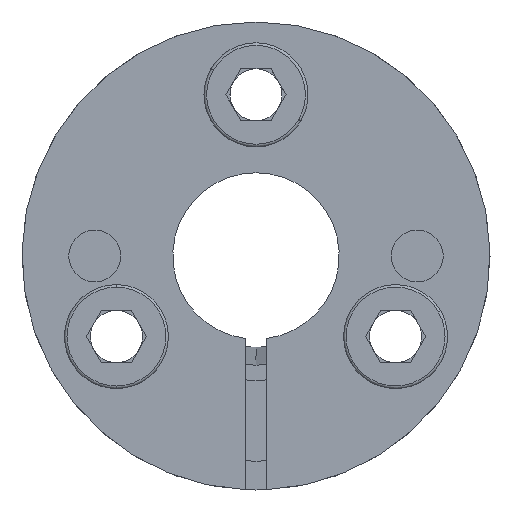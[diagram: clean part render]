
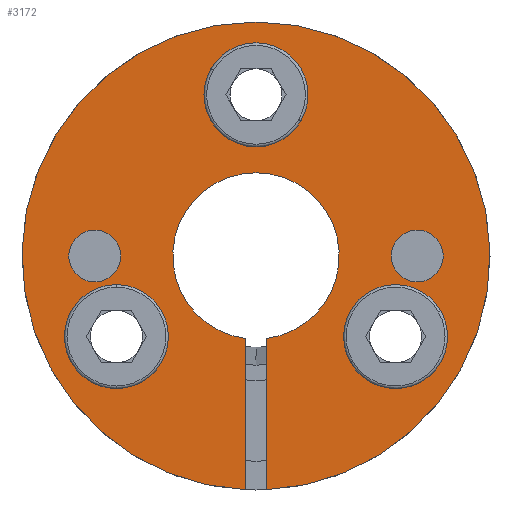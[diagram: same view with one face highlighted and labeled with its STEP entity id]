
A CAD part, left-side view. The second image highlights one B-rep face of the part: STEP entity #3172.
In plain terms, the highlighted planar face has unit normal (-1, 0, 0).
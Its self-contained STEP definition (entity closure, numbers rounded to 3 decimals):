
#39 = CIRCLE ( 'NONE', #2388, 8. ) ;
#50 = FACE_BOUND ( 'NONE', #2341, .T. ) ;
#59 = ORIENTED_EDGE ( 'NONE', *, *, #2454, .F. ) ;
#144 = CARTESIAN_POINT ( 'NONE',  ( -18., -15.5, -2.5 ) ) ;
#155 = LINE ( 'NONE', #1305, #2128 ) ;
#159 = ORIENTED_EDGE ( 'NONE', *, *, #230, .F. ) ;
#174 = ORIENTED_EDGE ( 'NONE', *, *, #2942, .F. ) ;
#194 = DIRECTION ( 'NONE',  ( 0., 0., -1. ) ) ;
#210 = ORIENTED_EDGE ( 'NONE', *, *, #326, .F. ) ;
#220 = CIRCLE ( 'NONE', #912, 2.5 ) ;
#230 = EDGE_CURVE ( 'NONE', #3008, #1530, #39, .T. ) ;
#233 = CARTESIAN_POINT ( 'NONE',  ( -18., 13.423, -11.25 ) ) ;
#269 = CARTESIAN_POINT ( 'NONE',  ( -18., -13.423, -7.75 ) ) ;
#280 = DIRECTION ( 'NONE',  ( -1., 0., 0. ) ) ;
#291 = EDGE_CURVE ( 'NONE', #2180, #383, #1991, .T. ) ;
#295 = CIRCLE ( 'NONE', #2463, 22.5 ) ;
#321 = CARTESIAN_POINT ( 'NONE',  ( -18., 0., 8. ) ) ;
#326 = EDGE_CURVE ( 'NONE', #3217, #930, #1178, .T. ) ;
#352 = DIRECTION ( 'NONE',  ( 0., 0., 1. ) ) ;
#383 = VERTEX_POINT ( 'NONE', #2595 ) ;
#425 = AXIS2_PLACEMENT_3D ( 'NONE', #1484, #2297, #1157 ) ;
#426 = DIRECTION ( 'NONE',  ( 0., 0., 1. ) ) ;
#498 = EDGE_CURVE ( 'NONE', #2180, #3008, #2657, .T. ) ;
#574 = DIRECTION ( 'NONE',  ( -1., 0., 0. ) ) ;
#577 = CARTESIAN_POINT ( 'NONE',  ( -18., 15.5, -2.5 ) ) ;
#578 = VERTEX_POINT ( 'NONE', #3238 ) ;
#647 = FACE_BOUND ( 'NONE', #2749, .T. ) ;
#649 = VERTEX_POINT ( 'NONE', #2586 ) ;
#684 = CIRCLE ( 'NONE', #2157, 2.5 ) ;
#688 = CIRCLE ( 'NONE', #1444, 3.5 ) ;
#749 = DIRECTION ( 'NONE',  ( -1., 0., 0. ) ) ;
#778 = EDGE_CURVE ( 'NONE', #2796, #2207, #3049, .T. ) ;
#828 = CARTESIAN_POINT ( 'NONE',  ( -18., -13.423, -7.75 ) ) ;
#831 = ORIENTED_EDGE ( 'NONE', *, *, #1245, .F. ) ;
#846 = CARTESIAN_POINT ( 'NONE',  ( -18., -15.5, 0. ) ) ;
#853 = AXIS2_PLACEMENT_3D ( 'NONE', #1454, #749, #1351 ) ;
#877 = ORIENTED_EDGE ( 'NONE', *, *, #1572, .F. ) ;
#879 = ORIENTED_EDGE ( 'NONE', *, *, #2711, .F. ) ;
#891 = CARTESIAN_POINT ( 'NONE',  ( -18., -1., 0. ) ) ;
#912 = AXIS2_PLACEMENT_3D ( 'NONE', #846, #2888, #1852 ) ;
#930 = VERTEX_POINT ( 'NONE', #3054 ) ;
#949 = DIRECTION ( 'NONE',  ( 0., 0., 1. ) ) ;
#966 = DIRECTION ( 'NONE',  ( -1., 0., 0. ) ) ;
#1043 = EDGE_LOOP ( 'NONE', ( #3157, #174 ) ) ;
#1078 = VERTEX_POINT ( 'NONE', #1317 ) ;
#1121 = DIRECTION ( 'NONE',  ( -1., 0., 0. ) ) ;
#1151 = DIRECTION ( 'NONE',  ( 0., 0., 1. ) ) ;
#1157 = DIRECTION ( 'NONE',  ( 0., 0., 1. ) ) ;
#1174 = DIRECTION ( 'NONE',  ( 1., 0., 0. ) ) ;
#1178 = CIRCLE ( 'NONE', #425, 3.5 ) ;
#1245 = EDGE_CURVE ( 'NONE', #649, #2807, #1839, .T. ) ;
#1247 = CARTESIAN_POINT ( 'NONE',  ( -18., 15.5, 0. ) ) ;
#1305 = CARTESIAN_POINT ( 'NONE',  ( -18., 1., 0. ) ) ;
#1317 = CARTESIAN_POINT ( 'NONE',  ( -18., 0., 22.5 ) ) ;
#1346 = CARTESIAN_POINT ( 'NONE',  ( -18., -15.5, 0. ) ) ;
#1347 = EDGE_CURVE ( 'NONE', #3185, #1738, #220, .T. ) ;
#1351 = DIRECTION ( 'NONE',  ( 0., 0., 1. ) ) ;
#1354 = FACE_BOUND ( 'NONE', #1043, .T. ) ;
#1360 = CIRCLE ( 'NONE', #1385, 3.5 ) ;
#1361 = EDGE_LOOP ( 'NONE', ( #831, #877 ) ) ;
#1383 = AXIS2_PLACEMENT_3D ( 'NONE', #1247, #966, #949 ) ;
#1385 = AXIS2_PLACEMENT_3D ( 'NONE', #828, #1964, #1483 ) ;
#1428 = CIRCLE ( 'NONE', #853, 22.5 ) ;
#1444 = AXIS2_PLACEMENT_3D ( 'NONE', #3233, #3136, #3128 ) ;
#1454 = CARTESIAN_POINT ( 'NONE',  ( -18., 0., 0. ) ) ;
#1483 = DIRECTION ( 'NONE',  ( 0., 0., 1. ) ) ;
#1484 = CARTESIAN_POINT ( 'NONE',  ( -18., 0., 15.5 ) ) ;
#1506 = ORIENTED_EDGE ( 'NONE', *, *, #2873, .T. ) ;
#1530 = VERTEX_POINT ( 'NONE', #3280 ) ;
#1547 = ORIENTED_EDGE ( 'NONE', *, *, #291, .T. ) ;
#1555 = VERTEX_POINT ( 'NONE', #2505 ) ;
#1572 = EDGE_CURVE ( 'NONE', #2807, #649, #2847, .T. ) ;
#1586 = DIRECTION ( 'NONE',  ( 0., 0., 1. ) ) ;
#1611 = CARTESIAN_POINT ( 'NONE',  ( -18., 15.5, 0. ) ) ;
#1727 = AXIS2_PLACEMENT_3D ( 'NONE', #269, #280, #352 ) ;
#1730 = CARTESIAN_POINT ( 'NONE',  ( -18., 0., 0. ) ) ;
#1738 = VERTEX_POINT ( 'NONE', #144 ) ;
#1832 = ORIENTED_EDGE ( 'NONE', *, *, #2074, .F. ) ;
#1839 = CIRCLE ( 'NONE', #2704, 2.5 ) ;
#1843 = DIRECTION ( 'NONE',  ( 0., 0., 1. ) ) ;
#1852 = DIRECTION ( 'NONE',  ( 0., 0., 1. ) ) ;
#1854 = CARTESIAN_POINT ( 'NONE',  ( -18., 13.423, -4.25 ) ) ;
#1930 = CARTESIAN_POINT ( 'NONE',  ( -18., -15.5, 2.5 ) ) ;
#1964 = DIRECTION ( 'NONE',  ( -1., 0., 0. ) ) ;
#1991 = LINE ( 'NONE', #891, #2529 ) ;
#1997 = CARTESIAN_POINT ( 'NONE',  ( -18., 0., 0. ) ) ;
#2004 = DIRECTION ( 'NONE',  ( 0., 0., 1. ) ) ;
#2007 = FACE_BOUND ( 'NONE', #3187, .T. ) ;
#2032 = DIRECTION ( 'NONE',  ( -1., 0., 0. ) ) ;
#2052 = VERTEX_POINT ( 'NONE', #2159 ) ;
#2074 = EDGE_CURVE ( 'NONE', #2052, #1555, #3033, .T. ) ;
#2078 = CARTESIAN_POINT ( 'NONE',  ( -18., 13.423, -7.75 ) ) ;
#2080 = DIRECTION ( 'NONE',  ( -1., 0., 0. ) ) ;
#2104 = CARTESIAN_POINT ( 'NONE',  ( -18., 13.423, -7.75 ) ) ;
#2128 = VECTOR ( 'NONE', #2311, 1000. ) ;
#2157 = AXIS2_PLACEMENT_3D ( 'NONE', #1346, #3131, #1586 ) ;
#2159 = CARTESIAN_POINT ( 'NONE',  ( -18., -13.423, -11.25 ) ) ;
#2171 = EDGE_LOOP ( 'NONE', ( #2802, #1547, #2885, #2280, #1506, #159 ) ) ;
#2180 = VERTEX_POINT ( 'NONE', #2399 ) ;
#2207 = VERTEX_POINT ( 'NONE', #233 ) ;
#2262 = AXIS2_PLACEMENT_3D ( 'NONE', #2701, #1174, #2955 ) ;
#2280 = ORIENTED_EDGE ( 'NONE', *, *, #2577, .T. ) ;
#2297 = DIRECTION ( 'NONE',  ( -1., 0., 0. ) ) ;
#2311 = DIRECTION ( 'NONE',  ( 0., 0., 1. ) ) ;
#2341 = EDGE_LOOP ( 'NONE', ( #879, #1832 ) ) ;
#2371 = DIRECTION ( 'NONE',  ( 0., 0., 1. ) ) ;
#2388 = AXIS2_PLACEMENT_3D ( 'NONE', #2761, #2773, #2784 ) ;
#2399 = CARTESIAN_POINT ( 'NONE',  ( -18., -1., -7.937 ) ) ;
#2454 = EDGE_CURVE ( 'NONE', #930, #3217, #688, .T. ) ;
#2463 = AXIS2_PLACEMENT_3D ( 'NONE', #1997, #2080, #1843 ) ;
#2505 = CARTESIAN_POINT ( 'NONE',  ( -18., -13.423, -4.25 ) ) ;
#2529 = VECTOR ( 'NONE', #194, 1000. ) ;
#2577 = EDGE_CURVE ( 'NONE', #1078, #578, #295, .T. ) ;
#2586 = CARTESIAN_POINT ( 'NONE',  ( -18., 15.5, 2.5 ) ) ;
#2595 = CARTESIAN_POINT ( 'NONE',  ( -18., -1., -22.478 ) ) ;
#2657 = CIRCLE ( 'NONE', #3179, 8. ) ;
#2686 = EDGE_CURVE ( 'NONE', #383, #1078, #1428, .T. ) ;
#2696 = AXIS2_PLACEMENT_3D ( 'NONE', #2104, #574, #2371 ) ;
#2697 = PLANE ( 'NONE',  #2262 ) ;
#2701 = CARTESIAN_POINT ( 'NONE',  ( -18., 22.5, 0. ) ) ;
#2704 = AXIS2_PLACEMENT_3D ( 'NONE', #1611, #1121, #1151 ) ;
#2707 = FACE_BOUND ( 'NONE', #1361, .T. ) ;
#2711 = EDGE_CURVE ( 'NONE', #1555, #2052, #1360, .T. ) ;
#2749 = EDGE_LOOP ( 'NONE', ( #59, #210 ) ) ;
#2761 = CARTESIAN_POINT ( 'NONE',  ( -18., 0., 0. ) ) ;
#2773 = DIRECTION ( 'NONE',  ( -1., 0., 0. ) ) ;
#2784 = DIRECTION ( 'NONE',  ( 0., 0., 1. ) ) ;
#2796 = VERTEX_POINT ( 'NONE', #1854 ) ;
#2802 = ORIENTED_EDGE ( 'NONE', *, *, #498, .F. ) ;
#2807 = VERTEX_POINT ( 'NONE', #577 ) ;
#2847 = CIRCLE ( 'NONE', #1383, 2.5 ) ;
#2873 = EDGE_CURVE ( 'NONE', #578, #1530, #155, .T. ) ;
#2885 = ORIENTED_EDGE ( 'NONE', *, *, #2686, .T. ) ;
#2888 = DIRECTION ( 'NONE',  ( -1., 0., 0. ) ) ;
#2921 = ORIENTED_EDGE ( 'NONE', *, *, #778, .F. ) ;
#2942 = EDGE_CURVE ( 'NONE', #1738, #3185, #684, .T. ) ;
#2955 = DIRECTION ( 'NONE',  ( 0., 0., -1. ) ) ;
#2991 = EDGE_CURVE ( 'NONE', #2207, #2796, #3182, .T. ) ;
#3008 = VERTEX_POINT ( 'NONE', #321 ) ;
#3033 = CIRCLE ( 'NONE', #1727, 3.5 ) ;
#3049 = CIRCLE ( 'NONE', #3171, 3.5 ) ;
#3054 = CARTESIAN_POINT ( 'NONE',  ( -18., 0., 19. ) ) ;
#3128 = DIRECTION ( 'NONE',  ( 0., 0., 1. ) ) ;
#3131 = DIRECTION ( 'NONE',  ( -1., 0., 0. ) ) ;
#3136 = DIRECTION ( 'NONE',  ( -1., 0., 0. ) ) ;
#3157 = ORIENTED_EDGE ( 'NONE', *, *, #1347, .F. ) ;
#3171 = AXIS2_PLACEMENT_3D ( 'NONE', #2078, #2032, #2004 ) ;
#3172 = ADVANCED_FACE ( 'NONE', ( #1354, #2707, #50, #2007, #647, #3284 ), #2697, .F. ) ;
#3179 = AXIS2_PLACEMENT_3D ( 'NONE', #1730, #3215, #426 ) ;
#3182 = CIRCLE ( 'NONE', #2696, 3.5 ) ;
#3185 = VERTEX_POINT ( 'NONE', #1930 ) ;
#3187 = EDGE_LOOP ( 'NONE', ( #2921, #3296 ) ) ;
#3215 = DIRECTION ( 'NONE',  ( -1., 0., 0. ) ) ;
#3217 = VERTEX_POINT ( 'NONE', #3232 ) ;
#3232 = CARTESIAN_POINT ( 'NONE',  ( -18., 0., 12. ) ) ;
#3233 = CARTESIAN_POINT ( 'NONE',  ( -18., 0., 15.5 ) ) ;
#3238 = CARTESIAN_POINT ( 'NONE',  ( -18., 1., -22.478 ) ) ;
#3280 = CARTESIAN_POINT ( 'NONE',  ( -18., 1., -7.937 ) ) ;
#3284 = FACE_OUTER_BOUND ( 'NONE', #2171, .T. ) ;
#3296 = ORIENTED_EDGE ( 'NONE', *, *, #2991, .F. ) ;
